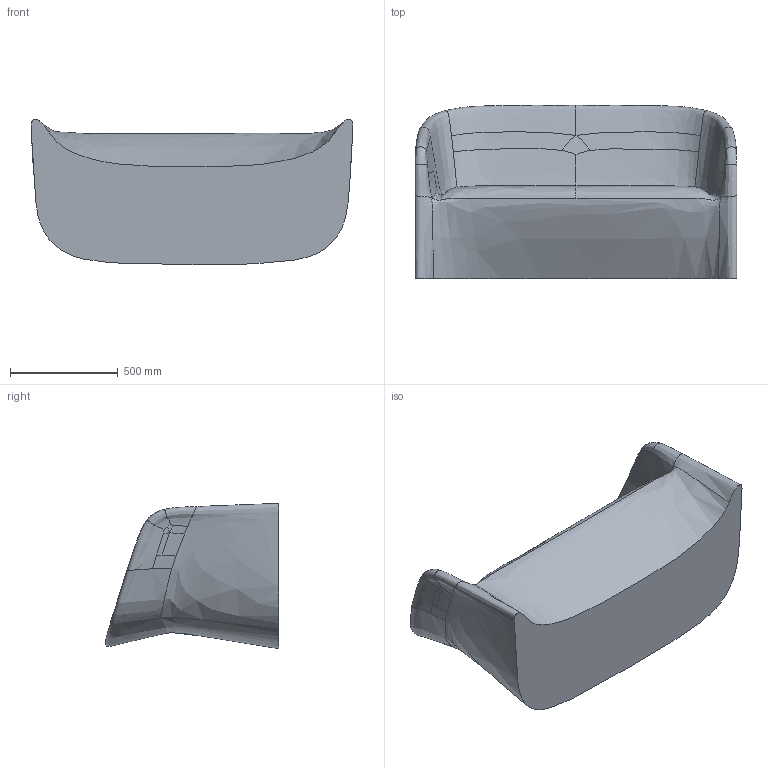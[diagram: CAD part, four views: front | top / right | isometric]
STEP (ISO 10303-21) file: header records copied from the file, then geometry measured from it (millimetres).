
FILE_DESCRIPTION(/* description */ ('STEP AP203'),/* implementation_level */ '2;1');
FILE_NAME(/* name */ 'Ryno 2-seater.stp',/* time_stamp */ '2023-12-13T11:22:53Z',/* author */ ('Millie.Stevens'),/* organization */ (''),/* preprocessor_version */ 'ST-DEVELOPER v19.2',/* originating_system */ 'Autodesk Inventor 2024',/* authorisation */ '');
FILE_SCHEMA (('AUTOMOTIVE_DESIGN { 1 0 10303 214 3 1 1 }'));
Length unit declared in the file: millimetre
Products named in the file (1): Ryno 2-seater
Bounding box: 1496.04 x 804.74 x 675.15 mm (x, y, z)
Volume: 343543486.7 mm3; surface area: 4555098.5 mm2
Topology: 1 solids, 1 shells, 42 faces, 107 edges, 67 vertices
Faces by surface type: bspline 41, plane 1
Entity records: 8188 total; most frequent: CARTESIAN_POINT 7472, ORIENTED_EDGE 214, B_SPLINE_CURVE_WITH_KNOTS 107, EDGE_CURVE 107, VERTEX_POINT 67, FACE_OUTER_BOUND 42, EDGE_LOOP 42, ADVANCED_FACE 42
